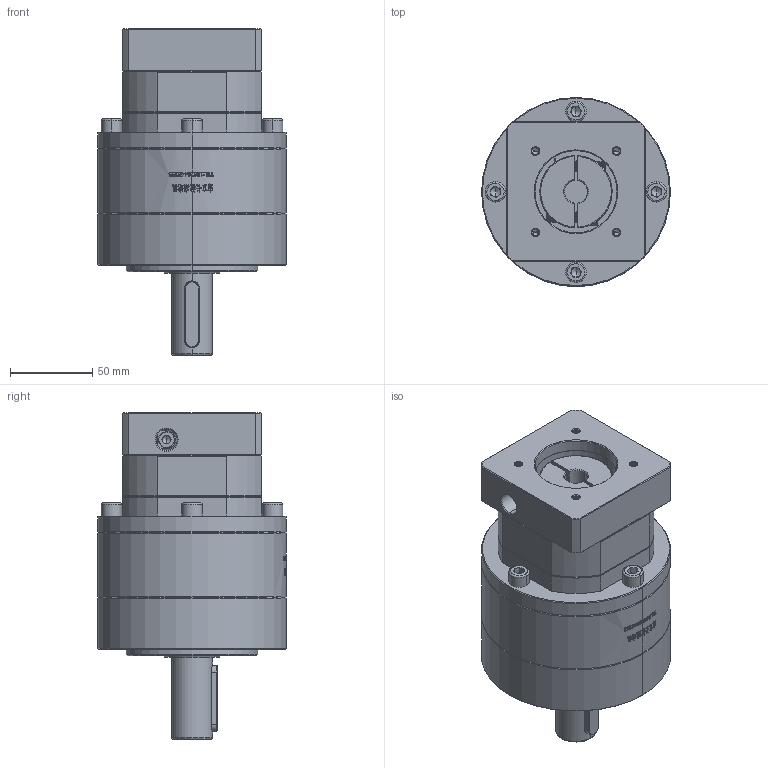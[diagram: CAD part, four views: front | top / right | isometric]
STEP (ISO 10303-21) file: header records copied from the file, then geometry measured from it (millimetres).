
FILE_DESCRIPTION (( 'STEP AP214' ), '1' );
FILE_NAME ('ZE120A-D25-L2-14-50-70-M5.step', '2023-03-13T06:48:32', ( '' ), ( '' ), 'SwSTEP 2.0', 'SolidWorks 2016', '' );
FILE_SCHEMA (( 'AUTOMOTIVE_DESIGN' ));
Length unit declared in the file: millimetre
Products named in the file (1): ZE120A-D25-L2-14-50-70-M5
Bounding box: 115 x 115 x 199 mm (x, y, z)
Volume: 1235442.2 mm3; surface area: 121670.5 mm2
Topology: 5 solids, 6 shells, 2026 faces, 5363 edges, 3428 vertices
Faces by surface type: plane 862, cylinder 500, bspline 348, cone 316
Entity records: 117110 total; most frequent: CARTESIAN_POINT 49294, ORIENTED_EDGE 10650, DIRECTION 7947, EDGE_CURVE 5325, VERTEX_POINT 3428, VECTOR 2817, LINE 2817, AXIS2_PLACEMENT_3D 2565
